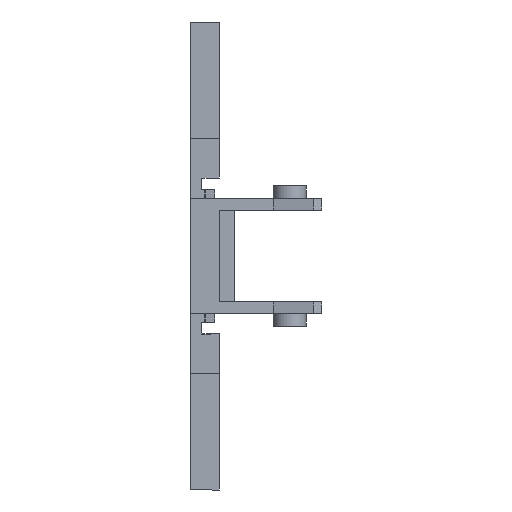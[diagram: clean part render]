
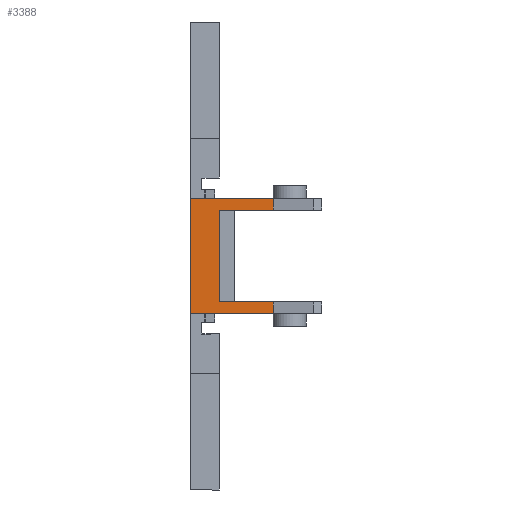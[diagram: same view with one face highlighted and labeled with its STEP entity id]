
A CAD part, front view. The second image highlights one B-rep face of the part: STEP entity #3388.
In plain terms, the highlighted planar face has unit normal (0, -1, 0).
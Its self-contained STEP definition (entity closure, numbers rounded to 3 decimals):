
#4 = DIRECTION ( 'NONE',  ( 0., -1., 0. ) ) ;
#5 = DIRECTION ( 'NONE',  ( -1., 0., 0. ) ) ;
#107 = CARTESIAN_POINT ( 'NONE',  ( 13.5, -16.55, 4.7 ) ) ;
#112 = DIRECTION ( 'NONE',  ( 1., 0., 0. ) ) ;
#141 = EDGE_CURVE ( 'NONE', #2048, #2049, #792, .T. ) ;
#242 = EDGE_CURVE ( 'NONE', #2044, #2050, #896, .T. ) ;
#253 = EDGE_CURVE ( 'NONE', #2043, #2044, #922, .T. ) ;
#259 = EDGE_CURVE ( 'NONE', #2047, #2048, #929, .T. ) ;
#272 = EDGE_CURVE ( 'NONE', #2046, #2045, #942, .T. ) ;
#288 = EDGE_CURVE ( 'NONE', #2043, #2045, #971, .T. ) ;
#309 = EDGE_CURVE ( 'NONE', #2050, #2049, #991, .T. ) ;
#385 = EDGE_CURVE ( 'NONE', #2046, #2047, #1094, .T. ) ;
#495 = AXIS2_PLACEMENT_3D ( 'NONE', #3068, #4, #5 ) ;
#792 = LINE ( 'NONE', #2196, #795 ) ;
#795 = VECTOR ( 'NONE', #2199, 1000. ) ;
#896 = LINE ( 'NONE', #2329, #909 ) ;
#909 = VECTOR ( 'NONE', #2334, 1000. ) ;
#922 = LINE ( 'NONE', #2351, #923 ) ;
#923 = VECTOR ( 'NONE', #2352, 1000. ) ;
#926 = VECTOR ( 'NONE', #2361, 1000. ) ;
#929 = LINE ( 'NONE', #2355, #926 ) ;
#938 = VECTOR ( 'NONE', #2378, 1000. ) ;
#942 = LINE ( 'NONE', #2377, #938 ) ;
#971 = LINE ( 'NONE', #107, #972 ) ;
#972 = VECTOR ( 'NONE', #112, 1000. ) ;
#991 = LINE ( 'NONE', #3207, #993 ) ;
#993 = VECTOR ( 'NONE', #3199, 1000. ) ;
#1094 = LINE ( 'NONE', #3203, #1095 ) ;
#1095 = VECTOR ( 'NONE', #3109, 1000. ) ;
#1432 = FACE_OUTER_BOUND ( 'NONE', #1841, .T. ) ;
#1789 = ORIENTED_EDGE ( 'NONE', *, *, #253, .F. ) ;
#1805 = ORIENTED_EDGE ( 'NONE', *, *, #259, .T. ) ;
#1811 = ORIENTED_EDGE ( 'NONE', *, *, #242, .F. ) ;
#1812 = ORIENTED_EDGE ( 'NONE', *, *, #385, .T. ) ;
#1841 = EDGE_LOOP ( 'NONE', ( #1789, #1936, #1937, #1812, #1805, #1929, #1928, #1811 ) ) ;
#1928 = ORIENTED_EDGE ( 'NONE', *, *, #309, .F. ) ;
#1929 = ORIENTED_EDGE ( 'NONE', *, *, #141, .T. ) ;
#1936 = ORIENTED_EDGE ( 'NONE', *, *, #288, .T. ) ;
#1937 = ORIENTED_EDGE ( 'NONE', *, *, #272, .F. ) ;
#2043 = VERTEX_POINT ( 'NONE', #2629 ) ;
#2044 = VERTEX_POINT ( 'NONE', #2630 ) ;
#2045 = VERTEX_POINT ( 'NONE', #2631 ) ;
#2046 = VERTEX_POINT ( 'NONE', #2632 ) ;
#2047 = VERTEX_POINT ( 'NONE', #2633 ) ;
#2048 = VERTEX_POINT ( 'NONE', #2634 ) ;
#2049 = VERTEX_POINT ( 'NONE', #2635 ) ;
#2050 = VERTEX_POINT ( 'NONE', #2636 ) ;
#2196 = CARTESIAN_POINT ( 'NONE',  ( 1.5, -16.55, -5.9 ) ) ;
#2199 = DIRECTION ( 'NONE',  ( 1., 0., 0. ) ) ;
#2329 = CARTESIAN_POINT ( 'NONE',  ( 13.5, -16.55, -4.7 ) ) ;
#2334 = DIRECTION ( 'NONE',  ( 1., 0., 0. ) ) ;
#2351 = CARTESIAN_POINT ( 'NONE',  ( 3., -16.55, -5.9 ) ) ;
#2352 = DIRECTION ( 'NONE',  ( 0., 0., -1. ) ) ;
#2355 = CARTESIAN_POINT ( 'NONE',  ( 0., -16.55, 15.37 ) ) ;
#2361 = DIRECTION ( 'NONE',  ( 0., 0., -1. ) ) ;
#2377 = CARTESIAN_POINT ( 'NONE',  ( 8.523, -16.55, 67.733 ) ) ;
#2378 = DIRECTION ( 'NONE',  ( 0., 0., -1. ) ) ;
#2629 = CARTESIAN_POINT ( 'NONE',  ( 3., -16.55, 4.7 ) ) ;
#2630 = CARTESIAN_POINT ( 'NONE',  ( 3., -16.55, -4.7 ) ) ;
#2631 = CARTESIAN_POINT ( 'NONE',  ( 8.523, -16.55, 4.7 ) ) ;
#2632 = CARTESIAN_POINT ( 'NONE',  ( 8.523, -16.55, 5.9 ) ) ;
#2633 = CARTESIAN_POINT ( 'NONE',  ( 0., -16.55, 5.9 ) ) ;
#2634 = CARTESIAN_POINT ( 'NONE',  ( 0., -16.55, -5.9 ) ) ;
#2635 = CARTESIAN_POINT ( 'NONE',  ( 8.523, -16.55, -5.9 ) ) ;
#2636 = CARTESIAN_POINT ( 'NONE',  ( 8.523, -16.55, -4.7 ) ) ;
#3065 = PLANE ( 'NONE',  #495 ) ;
#3068 = CARTESIAN_POINT ( 'NONE',  ( 13.5, -16.55, -5.9 ) ) ;
#3109 = DIRECTION ( 'NONE',  ( -1., 0., 0. ) ) ;
#3199 = DIRECTION ( 'NONE',  ( 0., 0., -1. ) ) ;
#3203 = CARTESIAN_POINT ( 'NONE',  ( 13.5, -16.55, 5.9 ) ) ;
#3207 = CARTESIAN_POINT ( 'NONE',  ( 8.523, -16.55, 67.733 ) ) ;
#3388 = ADVANCED_FACE ( 'NONE', ( #1432 ), #3065, .T. ) ;
